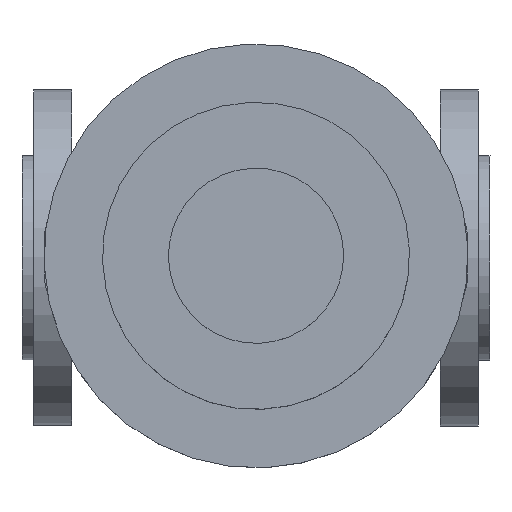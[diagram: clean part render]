
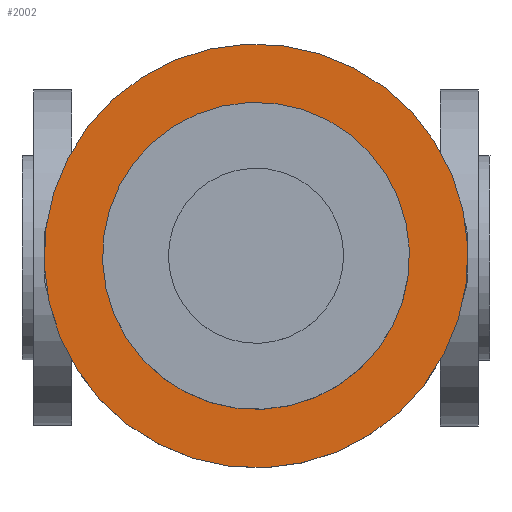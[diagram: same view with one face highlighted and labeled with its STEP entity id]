
A CAD part, top view. The second image highlights one B-rep face of the part: STEP entity #2002.
In plain terms, the highlighted planar face has unit normal (0, 0, 1).
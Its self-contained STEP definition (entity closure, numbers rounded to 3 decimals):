
#694 = FACE_OUTER_BOUND ( 'NONE', #11264, .T. ) ;
#2002 = ADVANCED_FACE ( 'NONE', ( #694, #6524 ), #5087, .T. ) ;
#2322 = EDGE_CURVE ( 'NONE', #10946, #16351, #13236, .T. ) ;
#2477 = EDGE_CURVE ( 'NONE', #17384, #16670, #4150, .T. ) ;
#2502 = DIRECTION ( 'NONE',  ( 1., 0., 0. ) ) ;
#3002 = ORIENTED_EDGE ( 'NONE', *, *, #2477, .T. ) ;
#3953 = AXIS2_PLACEMENT_3D ( 'NONE', #10863, #9554, #16706 ) ;
#3955 = ORIENTED_EDGE ( 'NONE', *, *, #5670, .F. ) ;
#4120 = ORIENTED_EDGE ( 'NONE', *, *, #4377, .T. ) ;
#4150 = CIRCLE ( 'NONE', #7187, 72.5 ) ;
#4377 = EDGE_CURVE ( 'NONE', #16670, #17384, #8436, .T. ) ;
#5087 = PLANE ( 'NONE',  #3953 ) ;
#5567 = CARTESIAN_POINT ( 'NONE',  ( -52.115, 0., 304.1 ) ) ;
#5670 = EDGE_CURVE ( 'NONE', #16351, #10946, #15381, .T. ) ;
#6524 = FACE_BOUND ( 'NONE', #18489, .T. ) ;
#6700 = CARTESIAN_POINT ( 'NONE',  ( -52.115, 0., 304.1 ) ) ;
#7187 = AXIS2_PLACEMENT_3D ( 'NONE', #5567, #11330, #17183 ) ;
#7797 = AXIS2_PLACEMENT_3D ( 'NONE', #8406, #8592, #2502 ) ;
#7931 = DIRECTION ( 'NONE',  ( 1., 0., 0. ) ) ;
#8043 = CARTESIAN_POINT ( 'NONE',  ( -52.115, 0., 304.1 ) ) ;
#8406 = CARTESIAN_POINT ( 'NONE',  ( -52.115, 0., 304.1 ) ) ;
#8436 = CIRCLE ( 'NONE', #10846, 72.5 ) ;
#8592 = DIRECTION ( 'NONE',  ( 0., 0., 1. ) ) ;
#9554 = DIRECTION ( 'NONE',  ( 0., 0., 1. ) ) ;
#10221 = CARTESIAN_POINT ( 'NONE',  ( -72.225, 48.496, 304.1 ) ) ;
#10846 = AXIS2_PLACEMENT_3D ( 'NONE', #8043, #13828, #13925 ) ;
#10863 = CARTESIAN_POINT ( 'NONE',  ( -72.838, 49.974, 304.1 ) ) ;
#10946 = VERTEX_POINT ( 'NONE', #10221 ) ;
#11264 = EDGE_LOOP ( 'NONE', ( #4120, #3002 ) ) ;
#11330 = DIRECTION ( 'NONE',  ( 0., 0., 1. ) ) ;
#11389 = AXIS2_PLACEMENT_3D ( 'NONE', #6700, #13618, #7931 ) ;
#13236 = CIRCLE ( 'NONE', #7797, 52.5 ) ;
#13618 = DIRECTION ( 'NONE',  ( 0., 0., 1. ) ) ;
#13828 = DIRECTION ( 'NONE',  ( 0., 0., 1. ) ) ;
#13925 = DIRECTION ( 'NONE',  ( -0.383, 0.924, 0. ) ) ;
#15381 = CIRCLE ( 'NONE', #11389, 52.5 ) ;
#15519 = ORIENTED_EDGE ( 'NONE', *, *, #2322, .F. ) ;
#15692 = CARTESIAN_POINT ( 'NONE',  ( -24.344, -66.97, 304.1 ) ) ;
#16351 = VERTEX_POINT ( 'NONE', #16527 ) ;
#16527 = CARTESIAN_POINT ( 'NONE',  ( -32.005, -48.496, 304.1 ) ) ;
#16670 = VERTEX_POINT ( 'NONE', #18720 ) ;
#16706 = DIRECTION ( 'NONE',  ( 1., 0., 0. ) ) ;
#17183 = DIRECTION ( 'NONE',  ( -0.383, 0.924, 0. ) ) ;
#17384 = VERTEX_POINT ( 'NONE', #15692 ) ;
#18489 = EDGE_LOOP ( 'NONE', ( #15519, #3955 ) ) ;
#18720 = CARTESIAN_POINT ( 'NONE',  ( -79.886, 66.97, 304.1 ) ) ;
